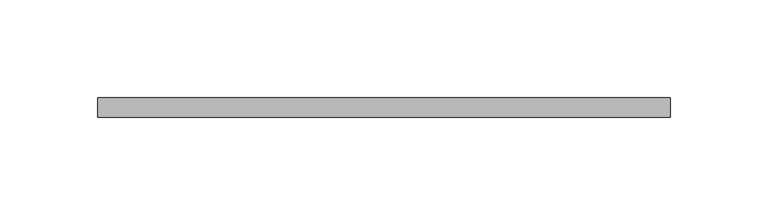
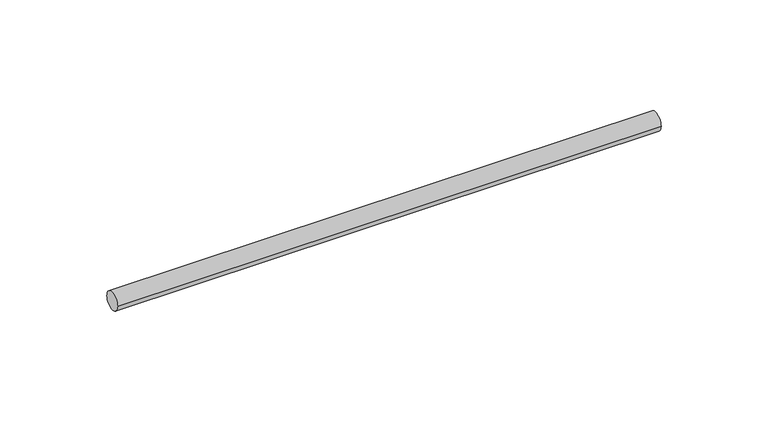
"""IFC4 building model written with IfcOpenShell, lengths in millimetres: valve geometry, Superfix Threaded Rod (used for clamps) : Threaded Rod  Extra  - 1000 mm (used for clamps)."""

import ifcopenshell
import ifcopenshell.guid

model = None  # the IFC model being written
_history = None  # IfcOwnerHistory: only IFC2X3 demands one
_inside = {}  # id of a spatial element -> (the spatial element, [elements in it])
_under = {}  # id of a project, library or spatial element -> (it, [spatial elements below it])
_declared = {}  # id of a project -> (the project, [libraries it declares])
_typed = {}  # id of a type object -> (the type object, [elements of that type])
_made_of = {}  # id of a material, layer set ... -> (it, [elements and type objects made of it])


def new_model(schema):
    """Start an empty IFC model of exactly this schema.

    Asked for "IFC4X3", IfcOpenShell would pick the latest addendum, in which some entities
    have other attributes; the version numbers below select the first issue.
    IFC2X3 requires an IfcOwnerHistory on every rooted entity: one is made here for all.
    """
    global model, _history
    if schema == "IFC4X3":
        model = ifcopenshell.file(schema_version=(4, 3, 0, 0))
    else:
        model = ifcopenshell.file(schema=schema)
    _inside.clear()
    _under.clear()
    _declared.clear()
    _typed.clear()
    _made_of.clear()
    _history = None
    if model.schema == "IFC2X3":
        org = make("IfcOrganization", Name="unknown")
        user = make(
            "IfcPersonAndOrganization",
            ThePerson=make("IfcPerson", FamilyName="unknown"),
            TheOrganization=org,
        )
        app = make(
            "IfcApplication",
            ApplicationDeveloper=org,
            Version="unknown",
            ApplicationFullName="unknown",
            ApplicationIdentifier="unknown",
        )
        _history = make(
            "IfcOwnerHistory",
            OwningUser=user,
            OwningApplication=app,
            ChangeAction="ADDED",
            CreationDate=0,
        )
    return model


def make(cls, **values):
    """One entity of the class cls with the attributes given. An attribute that is None is left unset."""
    return model.create_entity(
        cls, **{name: value for name, value in values.items() if value is not None}
    )


def rooted(cls, **values):
    """An entity with a GlobalId (a new one), such as an element, a storey or a relation."""
    return make(cls, GlobalId=ifcopenshell.guid.new(), OwnerHistory=_history, **values)


def si_unit(unit_type, name, prefix=None):
    """IfcSIUnit, for example si_unit("LENGTHUNIT", "METRE", prefix="MILLI")."""
    return make("IfcSIUnit", UnitType=unit_type, Prefix=prefix, Name=name)


def assignment(units):
    """IfcUnitAssignment: the units of a project."""
    return None if units is None else make("IfcUnitAssignment", Units=units)


def point(xyz):
    """IfcCartesianPoint."""
    return None if xyz is None else make("IfcCartesianPoint", Coordinates=xyz)


def direction(xyz):
    """IfcDirection."""
    return None if xyz is None else make("IfcDirection", DirectionRatios=xyz)


def frame(location, z_axis=None, x_axis=None):
    """IfcAxis2Placement3D, a coordinate frame: its origin and axes. An axis left out is left unset."""
    return make(
        "IfcAxis2Placement3D",
        Location=point(location),
        Axis=direction(z_axis),
        RefDirection=direction(x_axis),
    )


def frame_2d(location, x_axis=None):
    """IfcAxis2Placement2D, a coordinate frame in the plane: its origin and x axis."""
    return make(
        "IfcAxis2Placement2D", Location=point(location), RefDirection=direction(x_axis)
    )


def origin():
    """The frame at (0, 0, 0) with its axes left unset."""
    return frame((0.0, 0.0, 0.0))


def origin_2d():
    """The frame at (0, 0) in the plane with its x axis left unset."""
    return frame_2d((0.0, 0.0))


def place(relative_to, where):
    """IfcLocalPlacement: puts the frame where relative to a parent placement (None: the world)."""
    return make(
        "IfcLocalPlacement", PlacementRelTo=relative_to, RelativePlacement=where
    )


def context(
    kind, dimensions, precision=None, world=None, true_north=None, identifier=None
):
    """IfcGeometricRepresentationContext, for example the 3D "Model" context."""
    return make(
        "IfcGeometricRepresentationContext",
        ContextIdentifier=identifier,
        ContextType=kind,
        CoordinateSpaceDimension=dimensions,
        Precision=precision,
        WorldCoordinateSystem=world,
        TrueNorth=true_north,
    )


def project(units=None, contexts=None):
    """IfcProject with its units and contexts."""
    return rooted(
        "IfcProject",
        Name="project",
        RepresentationContexts=contexts,
        UnitsInContext=assignment(units),
    )


def spatial(cls, under=None, at=None, **own):
    """A site, building, storey or space (cls), placed at a placement, below another one or the project."""
    s = rooted(cls, ObjectPlacement=at, **own)
    if under is not None:
        _under.setdefault(under.id(), (under, []))[1].append(s)
    return s


def circle_curve(where, radius):
    """IfcCircle in the frame where."""
    return make("IfcCircle", Position=where, Radius=radius)


def trimmed(basis, trim1, trim2, sense, master):
    """IfcTrimmedCurve: the piece of a basis curve between two trims."""
    return make(
        "IfcTrimmedCurve",
        BasisCurve=basis,
        Trim1=trim1,
        Trim2=trim2,
        SenseAgreement=sense,
        MasterRepresentation=master,
    )


def segment(curve, same_sense, transition):
    """IfcCompositeCurveSegment."""
    return make(
        "IfcCompositeCurveSegment",
        Transition=transition,
        SameSense=same_sense,
        ParentCurve=curve,
    )


def composite_curve(segments, self_intersect=None):
    """IfcCompositeCurve: segments joined end to end."""
    return make("IfcCompositeCurve", Segments=segments, SelfIntersect=self_intersect)


def outline(outer, holes=None, kind="AREA"):
    """IfcArbitraryClosedProfileDef: a profile drawn as a closed curve; with holes, ...WithVoids."""
    if holes is None:
        return make("IfcArbitraryClosedProfileDef", ProfileType=kind, OuterCurve=outer)
    return make(
        "IfcArbitraryProfileDefWithVoids",
        ProfileType=kind,
        OuterCurve=outer,
        InnerCurves=holes,
    )


def extrude(swept, where, along, depth):
    """IfcExtrudedAreaSolid: the profile swept, set in the frame where, extruded along a direction by depth."""
    return make(
        "IfcExtrudedAreaSolid",
        SweptArea=swept,
        Position=where,
        ExtrudedDirection=direction(along),
        Depth=depth,
    )


def shape(context_of_items, identifier, shape_type, items):
    """IfcShapeRepresentation: the items that make up one representation, for example the "Body"."""
    return make(
        "IfcShapeRepresentation",
        ContextOfItems=context_of_items,
        RepresentationIdentifier=identifier,
        RepresentationType=shape_type,
        Items=items,
    )


def source(mapping_origin, context_of_items, identifier, shape_type, items):
    """IfcRepresentationMap: a shape defined once, which mapped items show again and again."""
    return make(
        "IfcRepresentationMap",
        MappingOrigin=mapping_origin,
        MappedRepresentation=shape(context_of_items, identifier, shape_type, items),
    )


def transform(
    local_origin,
    x_axis=None,
    y_axis=None,
    z_axis=None,
    scale=None,
    scale2=None,
    scale3=None,
    uniform=True,
):
    """IfcCartesianTransformationOperator3D, or its non-uniform kind. x_axis, y_axis, z_axis: its Axis1, 2, 3."""
    if uniform:
        return make(
            "IfcCartesianTransformationOperator3D",
            Axis1=direction(x_axis),
            Axis2=direction(y_axis),
            LocalOrigin=point(local_origin),
            Scale=scale,
            Axis3=direction(z_axis),
        )
    return make(
        "IfcCartesianTransformationOperator3DnonUniform",
        Axis1=direction(x_axis),
        Axis2=direction(y_axis),
        LocalOrigin=point(local_origin),
        Scale=scale,
        Axis3=direction(z_axis),
        Scale2=scale2,
        Scale3=scale3,
    )


def mapped(mapping_source, mapping_target):
    """IfcMappedItem: shows the shape of a source again, moved by a transform."""
    return make(
        "IfcMappedItem", MappingSource=mapping_source, MappingTarget=mapping_target
    )


def made_of(thing, what):
    """Note that an element or type object is made of a material, layer set ...; save() writes the relation."""
    if what is not None:
        _made_of.setdefault(what.id(), (what, []))[1].append(thing)
    return thing


def element(
    cls,
    number,
    at=None,
    inside=None,
    cuts=None,
    type_object=None,
    material=None,
    context=None,
    identifier="Body",
    shape_type=None,
    held_by="IfcProductDefinitionShape",
    body=None,
    shapes=None,
    **own,
):
    """One element of the class cls, such as IfcWall. Its Tag is "e" and its number.

    at: its placement. inside: the storey or other place that contains it. cuts: it is an
    opening in that element (IfcRelVoidsElement). A single representation is given by context,
    identifier, shape_type and body (its items); several are given by shapes. held_by: the class
    of the entity that holds the representations. save() writes the other relations.
    """
    e = rooted(cls, Tag="e%d" % number, ObjectPlacement=at, **own)
    if body is not None:
        shapes = [shape(context, identifier, shape_type, body)]
    if shapes is not None:
        e.Representation = make(held_by, Representations=shapes)
    if inside is not None:
        _inside.setdefault(inside.id(), (inside, []))[1].append(e)
    if cuts is not None:
        rooted(
            "IfcRelVoidsElement", RelatingBuildingElement=cuts, RelatedOpeningElement=e
        )
    if type_object is not None:
        _typed.setdefault(type_object.id(), (type_object, []))[1].append(e)
    return made_of(e, material)


def aggregate(whole, parts):
    """IfcRelAggregates: a whole, such as a stair, and the parts it consists of."""
    return rooted("IfcRelAggregates", RelatingObject=whole, RelatedObjects=parts)


def save(model, path):
    """Write the relations noted so far, then the file.

    IfcRelAggregates (storeys below a building ...), IfcRelContainedInSpatialStructure (elements
    in a storey), IfcRelDefinesByType, IfcRelAssociatesMaterial and IfcRelDeclares: one each for
    every whole, place, type object, material and project.
    """
    for whole, parts in _under.values():
        aggregate(whole, parts)
    for where, things in _inside.values():
        rooted(
            "IfcRelContainedInSpatialStructure",
            RelatedElements=things,
            RelatingStructure=where,
        )
    for kind, things in _typed.values():
        rooted("IfcRelDefinesByType", RelatedObjects=things, RelatingType=kind)
    for what, things in _made_of.values():
        rooted("IfcRelAssociatesMaterial", RelatedObjects=things, RelatingMaterial=what)
    for by, libraries in _declared.values():
        rooted("IfcRelDeclares", RelatingContext=by, RelatedDefinitions=libraries)
    model.write(path)


def valve_c34e8304(model_context):
    return source(origin(), model_context, "Body", "SweptSolid", [
        extrude(outline(composite_curve([segment(trimmed(circle_curve(origin_2d(), 5.0), [point((-5.0, 0.0))], [point((5.0, 0.0))], False, "CARTESIAN"), True, "CONTINUOUS"), segment(trimmed(circle_curve(origin_2d(), 5.0), [point((5.0, 0.0))], [point((-5.0, 0.0))], False, "CARTESIAN"), True, "CONTINUOUS")], self_intersect=False)), frame((-10.0, 0.0, 0.0), z_axis=(1.0, 0.0, 0.0), x_axis=(0.0, 1.0, 0.0)), (0.0, 0.0, 1.0), 293.5),
    ])


if __name__ == "__main__":
    model = new_model("IFC4")
    model_context = context("Model", 3, world=origin())
    ifc_project = project(units=[si_unit("LENGTHUNIT", "METRE", prefix="MILLI")], contexts=[model_context])
    site = spatial("IfcSite", under=ifc_project)
    building = spatial("IfcBuilding", under=site)
    placement = place(None, origin())
    valve_shape = valve_c34e8304(model_context)
    element("IfcValve", 1, ObjectType="Superfix Threaded Rod (used for clamps) : Threaded Rod  Extra  - 1000 mm (used for clamps)", at=placement, inside=building, context=model_context, shape_type="MappedRepresentation", body=[
        mapped(valve_shape, transform((0.0, 0.0, 0.0), x_axis=(1.0, 0.0, 0.0), y_axis=(0.0, 1.0, 0.0), z_axis=(0.0, 0.0, 1.0))),
    ])
    save(model, "model.ifc")
